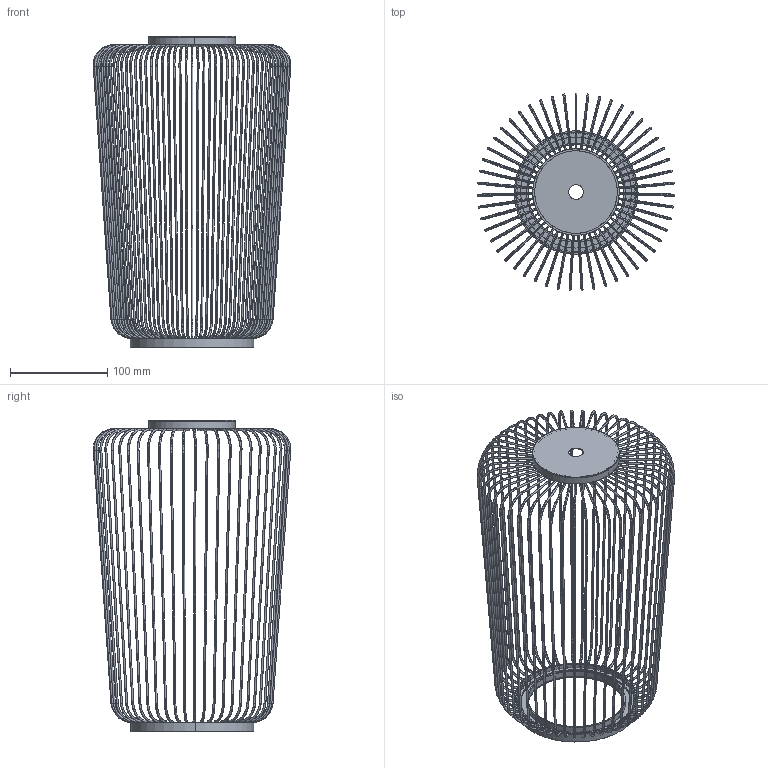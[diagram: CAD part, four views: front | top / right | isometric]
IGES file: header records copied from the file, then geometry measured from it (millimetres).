
Start section: SolidWorks IGES file using analytic representation for surfaces
Global section: file name: Z:\PRODUKT\Modele_3D_WWW\_KOLEKCJE_WWW\_CAMELEON\CAMELEON KENAI\CAMELEON-KENAI-B-12240\NL2500011659.IGS; native system: SolidWorks 2024; preprocessor: SolidWorks 2024; author: anna.bielnik; date: 260313.075644; units: millimetre
Bounding box: 203.11 x 203.02 x 320 mm (x, y, z)
Surface area: 168942.7 mm2 (no closed solid volume)
Topology: 0 solids, 0 shells, 1200 faces, 10956 edges, 10956 vertices
Faces by surface type: revolution 676, bspline 524
